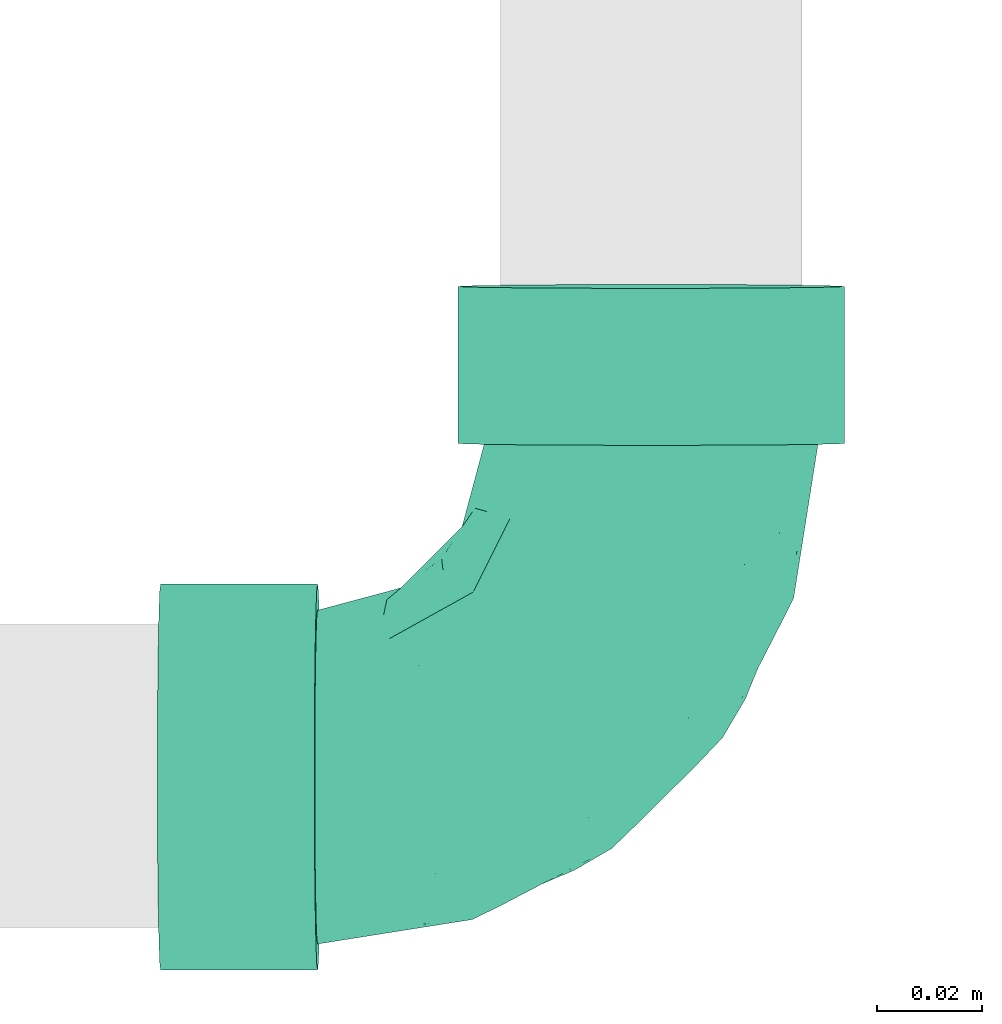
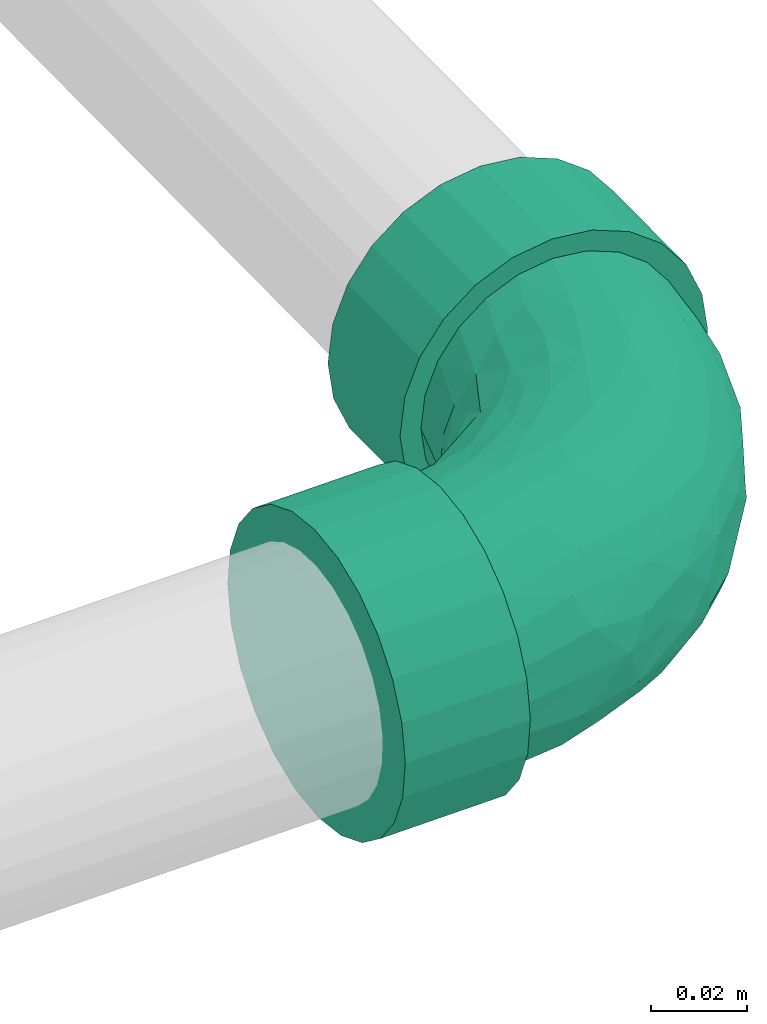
# One storey, part 65 of 78: 1 flow fitting.
"""IFC2X3 building model written with IfcOpenShell, lengths in millimetres."""

from ifc_helpers import new_model, entity, si_unit, converted_unit, derived_unit, direction, frame, origin_with_axes, place, context, subcontext, project, spatial, open_shell, surface_model, source, transform, mapped, type_object, element, save


model = new_model("IFC2X3")

# Units and contexts
model_context = context("Model", 3, precision=0.01, world=frame((0.0, 4.29681676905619e-09, 0.0)), true_north=direction((4.01073788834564e-13, 1.0)))
plan_context = context("Plan", 3, precision=0.01, world=frame((0.0, 4.29681676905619e-09, 0.0)), true_north=direction((4.01073788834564e-13, 1.0)))
body_context = subcontext(model_context, "Body", "Model", "MODEL_VIEW")
ifc_project = project(units=[converted_unit("PLANEANGLEUNIT", "DEGREE", entity("IfcPositiveLengthMeasure", 0.0174532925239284), si_unit("PLANEANGLEUNIT", "RADIAN"), dimensions=[0, 0, 0, 0, 0, 0, 0]), si_unit("AREAUNIT", "SQUARE_METRE"), si_unit("LENGTHUNIT", "METRE", prefix="MILLI"), si_unit("MASSUNIT", "GRAM", prefix="KILO"), si_unit("POWERUNIT", "WATT"), si_unit("PRESSUREUNIT", "PASCAL"), si_unit("FORCEUNIT", "NEWTON", prefix="KILO"), si_unit("ELECTRICVOLTAGEUNIT", "VOLT"), si_unit("ELECTRICCURRENTUNIT", "AMPERE"), si_unit("THERMODYNAMICTEMPERATUREUNIT", "DEGREE_CELSIUS"), si_unit("TIMEUNIT", "SECOND"), si_unit("VOLUMEUNIT", "CUBIC_METRE"), derived_unit("LINEARVELOCITYUNIT", [(si_unit("LENGTHUNIT", "METRE"), 1), (si_unit("TIMEUNIT", "SECOND"), -1)]), derived_unit("VOLUMETRICFLOWRATEUNIT", [(si_unit("VOLUMEUNIT", "CUBIC_METRE"), 1), (si_unit("TIMEUNIT", "SECOND"), -1)]), derived_unit("THERMALTRANSMITTANCEUNIT", [(si_unit("POWERUNIT", "WATT"), 1), (si_unit("THERMODYNAMICTEMPERATUREUNIT", "KELVIN"), -1), (si_unit("AREAUNIT", "SQUARE_METRE"), -1)]), derived_unit("SOUNDPRESSUREUNIT", [(si_unit("PRESSUREUNIT", "PASCAL"), 1)])], contexts=[model_context, plan_context])

# Site, building, storey
site_placement = place(None, frame((0.0, -4.29681676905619e-09, 0.0), z_axis=(0.0, 0.0, 1.0), x_axis=(1.0, 0.0, 0.0)))
site = spatial("IfcSite", under=ifc_project, at=site_placement, Name="ENGM", CompositionType="ELEMENT")
building_placement = place(site_placement, frame((0.0, 4.29681676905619e-09, 0.0), z_axis=(0.0, 0.0, 1.0), x_axis=(1.0, 0.0, 0.0)))
building = spatial("IfcBuilding", under=site, at=building_placement, Name="TH", CompositionType="ELEMENT")
storey_placement = place(building_placement, frame((0.0, 0.0, 205200.0), z_axis=(0.0, 0.0, 1.0), x_axis=(1.0, 0.0, 0.0)))
storey = spatial("IfcBuildingStorey", under=building, at=storey_placement, Name="Nivå D + 1,2 m", CompositionType="ELEMENT", Elevation=205200.0)

# Flow fitting
pipe_fitting_type = type_object("IfcPipeFittingType", Name="magi_sewer_bend_001 2", PredefinedType="BEND")
shared_shape = source(origin_with_axes(), body_context, "Body", "SurfaceModel", [
    surface_model("IfcShellBasedSurfaceModel", [(-93.78937, -9.55042, -35.64266), (-93.78937, -18.45, -31.95634), (-93.78937, -26.09224, -26.09224), (-93.78937, -35.64266, -9.55042), (-93.78937, -36.9, 0.0), (-93.78937, -31.95634, -18.45), (-93.78937, 31.95634, -18.45), (-93.78937, 9.55042, -35.64266), (-93.78937, 0.0, -36.9), (-93.78937, 18.45, -31.95634), (-93.78937, 26.09224, -26.09224), (-93.78937, 35.64266, -9.55042), (-93.78937, -35.64266, 9.55042), (-93.78937, -31.95634, 18.45), (-93.78937, -26.09224, 26.09224), (-93.78937, 18.45, 31.95634), (-93.78937, -9.55042, 35.64266), (-93.78937, -18.45, 31.95634), (-93.78937, 0.0, 36.9), (-93.78937, 35.64266, 9.55042), (-93.78937, 31.95634, 18.45), (-93.78937, 36.9, 0.0), (-93.78937, 26.09224, 26.09224), (-93.78937, 9.55042, 35.64266), (-63.78937, -26.09224, 26.09224), (-63.78937, 0.0, 36.9), (-63.78937, -9.55042, 35.64266), (-63.78937, -18.45, 31.95634), (-63.78937, -31.95634, 18.45), (-63.78937, -35.64266, 9.55042), (-63.78937, 35.64266, 9.55042), (-63.78937, 18.45, 31.95634), (-63.78937, 31.95634, 18.45), (-63.78937, 26.09224, 26.09224), (-63.78937, 9.55042, 35.64266), (-63.78937, 35.64266, -9.55042), (-63.78937, 36.9, 0.0), (-63.78937, -26.09224, -26.09224), (-63.78937, -36.9, 0.0), (-63.78937, -35.64266, -9.55042), (-63.78937, -31.95634, -18.45), (-63.78937, -18.45, -31.95634), (-63.78937, -9.55042, -35.64266), (-63.78937, 9.55042, -35.64266), (-63.78937, 0.0, -36.9), (-63.78937, 31.95634, -18.45), (-63.78937, 18.45, -31.95634), (-63.78937, 26.09224, -26.09224), (-35.62703, 93.79531, 9.55042), (-31.94071, 93.79469, 18.45), (-26.07661, 93.79371, 26.09224), (-35.62703, 93.79531, -9.55042), (-9.53479, 93.79096, 35.64266), (0.01563, 93.78937, 36.9), (-18.43437, 93.79244, 31.95634), (9.56605, 93.78777, -35.64266), (-18.43437, 93.79244, -31.95634), (-31.94071, 93.79469, -18.45), (-36.88437, 93.79552, 0.0), (-26.07661, 93.79371, -26.09224), (-9.53479, 93.79096, -35.64266), (9.56605, 93.78777, 35.64266), (18.46563, 93.78629, 31.95634), (26.10787, 93.78502, 26.09224), (35.65829, 93.78343, 9.55042), (36.91563, 93.78322, 0.0), (31.97197, 93.78404, 18.45), (18.46563, 93.78629, -31.95634), (0.01563, 93.78937, -36.9), (26.10787, 93.78502, -26.09224), (31.97197, 93.78404, -18.45), (35.65829, 93.78343, -9.55042), (26.10287, 63.78502, 26.09224), (36.91063, 63.78322, 0.0), (35.65329, 63.78343, 9.55042), (31.96697, 63.78404, 18.45), (18.46063, 63.78629, 31.95634), (9.56105, 63.78778, 35.64266), (9.56105, 63.78778, -35.64266), (26.10287, 63.78502, -26.09224), (31.96697, 63.78404, -18.45), (35.65329, 63.78343, -9.55042), (18.46063, 63.78629, -31.95634), (0.01063, 63.78937, -36.9), (0.01063, 63.78937, 36.9), (-26.08161, 63.79372, 26.09224), (-9.53979, 63.79096, 35.64266), (-18.43937, 63.79244, 31.95634), (-31.94571, 63.79469, 18.45), (-35.63203, 63.79531, 9.55042), (-35.63203, 63.79531, -9.55042), (-18.43937, 63.79244, -31.95634), (-31.94571, 63.79469, -18.45), (-26.08161, 63.79372, -26.09224), (-9.53979, 63.79096, -35.64266), (-36.88937, 63.79552, 0.0), (-63.78937, 0.0, -31.9), (-63.78937, -22.55671, -22.55671), (-63.78937, 8.25633, -30.81303), (-63.78937, 15.95, -27.62621), (-63.78937, 22.55671, -22.55671), (-63.78937, 30.81303, -8.25633), (-63.78937, 27.62621, -15.95), (-63.78937, -30.81303, -8.25633), (-63.78937, 15.95, 27.62621), (-63.78937, -15.95, -27.62621), (-63.78937, -8.25633, -30.81303), (-63.78937, -27.62621, -15.95), (-63.78937, -31.9, 0.0), (-63.78937, -15.95, 27.62621), (-63.78937, 30.81303, 8.25633), (-63.78937, 27.62621, 15.95), (-63.78937, 22.55671, 22.55671), (-63.78937, 8.25633, 30.81303), (-63.78937, -30.81303, 8.25633), (-63.78937, -27.62621, 15.95), (-63.78937, -22.55671, 22.55671), (-63.78937, -8.25633, 30.81303), (-63.78937, 0.0, 31.9), (-63.78937, 31.9, 0.0), (-8.2457, 63.79074, -30.81303), (22.56734, 63.78561, -22.55671), (0.01063, 63.78937, -31.9), (-22.54607, 63.79313, -22.55671), (-15.93937, 63.79202, -27.62621), (-27.61558, 63.79397, -15.95), (-30.8024, 63.7945, -8.25633), (22.56734, 63.78561, 22.55671), (8.26696, 63.78799, -30.81303), (15.96063, 63.78671, -27.62621), (30.82367, 63.78423, -8.25633), (27.63684, 63.78476, -15.95), (27.63684, 63.78476, 15.95), (31.91063, 63.78405, 0.0), (-30.8024, 63.7945, 8.25633), (-15.93937, 63.79202, 27.62621), (-27.61558, 63.79397, 15.95), (-22.54607, 63.79313, 22.55671), (-8.2457, 63.79074, 30.81303), (30.82367, 63.78423, 8.25633), (15.96063, 63.78671, 27.62621), (0.01063, 63.78937, 31.9), (8.26696, 63.78799, 30.81303), (-31.88937, 63.79468, 0.0), (-43.08604, -27.97732, 10.02596), (-46.77558, -24.78091, 17.90665), (-34.21948, -27.21709, 0.0), (-48.10039, -29.41538, 0.0), (-8.16306, -11.02112, 12.29956), (-2.21685, -8.52791, 6.70748), (1.84896, -1.84927, 13.21424), (-48.72418, -4.22591, 31.3545), (-44.66107, 4.8898, 31.84561), (10.90339, 7.78378, 11.98264), (19.48301, 25.94269, 15.8672), (7.4754, 11.5645, 20.3591), (-31.75206, -0.28709, 30.91936), (-46.65339, -12.03565, 28.68928), (-24.76478, -7.53466, 26.66382), (-40.9096, -18.22351, 23.69773), (-28.57458, -24.45131, 6.56214), (-20.88148, -20.42188, 0.0), (-11.56575, -7.47347, 20.3591), (-5.69333, 5.69427, 26.08182), (-31.17399, 50.90888, 13.86467), (-26.63992, 49.65914, 20.95703), (-11.89855, 55.01823, 29.87995), (-4.36414, 47.70887, 31.82163), (-49.16385, 12.51114, 30.13404), (-8.32127, 21.35872, 31.32249), (-15.84321, 5.85163, 29.78885), (-3.25166, 17.23033, 29.31573), (-55.18237, 19.31803, 25.99268), (-11.08136, 31.36561, 31.84265), (-23.62231, 23.62624, 31.12464), (-18.98995, 13.93756, 31.73588), (-50.42666, 33.97637, 7.01303), (-50.91955, 31.17731, 13.86255), (-39.59952, 39.60612, 11.92423), (-49.85747, 26.59243, 20.93471), (18.23033, 40.90656, 23.69773), (-33.074, 42.28378, 18.05581), (12.04342, 46.65139, 28.68928), (24.7887, 46.77145, 17.90665), (27.9845, 43.08138, 10.02596), (-7.54348, -13.62668, 0.0), (-15.48394, -17.54986, 8.26446), (4.23403, 48.72347, 31.3545), (-35.046, 13.66302, 31.32909), (-31.2954, 7.81639, 31.88643), (20.42537, 20.87807, 0.0), (24.45607, 28.57051, 6.56214), (17.55244, 15.48102, 8.26446), (29.42339, 48.09548, 0.0), (-33.90701, 21.64253, 29.50545), (-25.94593, -19.47869, 15.8672), (-23.12024, 41.22512, 26.81087), (-19.47975, 53.48429, 26.12511), (-33.57005, 51.45735, 6.8436), (-39.97248, 41.83694, 5.61376), (14.70142, 25.68478, 21.62026), (7.53878, 24.76353, 26.66382), (-36.16493, 47.84693, 0.0), (-29.52529, 33.68236, 26.2119), (-43.92016, 21.65347, 26.86272), (-0.4803, 0.48038, 18.8431), (-18.19741, 33.018, 30.66521), (-25.40818, 30.87975, 29.02507), (-13.7885, 43.2195, 30.38011), (-33.61949, 35.62164, 22.5958), (-40.96162, 34.27645, 17.78747), (0.29238, 31.75201, 30.91936), (-25.56771, -13.98174, 22.24371), (8.70396, 2.31024, 6.36121), (27.2228, 34.21494, 0.0), (13.62793, 7.54121, 0.0), (-47.8409, 36.1729, 0.0), (3.04223, -3.04273, 0.0), (-47.03189, 27.47246, -21.2478), (-50.89181, 31.18634, -13.86626), (-26.05508, -8.05385, -26.76304), (-27.69275, -0.39955, -30.34069), (-12.81458, -0.53724, -26.14042), (-50.49113, 4.03354, -31.79615), (-46.527, -28.55774, -10.39989), (-40.07196, -23.65645, -17.27847), (-30.42885, -23.92154, -10.70294), (-46.40182, 13.02181, -30.24973), (-35.13506, 7.54039, -31.8931), (-27.46463, 47.03646, -21.2478), (-51.63429, 33.47198, -6.98063), (-20.01398, 50.07333, -26.38899), (-13.01408, 46.40399, -30.24973), (-40.58229, 40.58906, -7.61606), (19.06588, 46.1376, -24.08513), (11.01575, 40.38682, -28.37128), (12.58485, 53.86372, -29.03271), (-6.21339, -11.22841, -8.40037), (-6.29302, -8.27188, -14.5345), (3.4298, -2.72078, -8.41635), (-18.60735, 17.2464, -31.88191), (-30.23178, 18.87477, -30.95048), (-50.07, 20.02232, -26.38899), (-53.69662, -25.39415, -18.53413), (-31.02727, 36.23446, -24.02673), (-29.47502, 29.47993, -28.00882), (-38.98268, 26.94506, -25.34272), (2.79694, -0.58162, -13.67243), (-46.14077, -19.05819, -24.08513), (23.66313, 40.06802, -17.27847), (28.56549, 46.52224, -10.39989), (23.92661, 30.42486, -10.70294), (-53.86581, -12.57587, -29.03271), (4.0299, 46.98803, -31.31678), (-20.16978, -15.53447, -17.40223), (-23.8098, -13.01342, -22.31603), (-11.55909, -7.8898, -19.94174), (-34.80482, -14.56735, -25.04645), (-40.38865, -11.00902, -28.37128), (-46.9887, -4.02207, -31.31678), (-23.8976, 39.24022, -27.02162), (-33.46337, 51.63987, -6.98063), (-4.02513, 50.49179, -31.79615), (-11.25614, 11.25801, -30.12263), (0.40417, 27.69268, -30.34069), (1.34693, 14.97706, -26.6036), (-31.17786, 50.897, -13.86626), (-38.30467, 38.31105, -15.72273), (25.4031, 53.69239, -18.53413), (18.4916, 25.61686, -17.13242), (10.28757, 12.08451, -17.69382), (13.01739, 23.80763, -22.31603), (6.59831, 27.22388, -27.86803), (-7.53454, 35.13631, -31.8931), (-38.77356, 20.52941, -28.75161), (-19.01603, 31.04056, -30.79542), (-0.2976, 0.29765, -18.48494), (-14.7701, -17.83817, -5.48813), (16.36021, 15.8364, -11.88125), (17.84063, 14.76713, -5.48813), (3.76429, 9.71857, -22.37704), (-15.83913, -16.35758, -11.88125)], [open_shell([[[0, 1, 2]], [[0, 2, 3]], [[3, 4, 0]], [[3, 2, 5]], [[0, 4, 6]], [[0, 7, 8]], [[0, 9, 7]], [[9, 6, 10]], [[0, 6, 9]], [[4, 11, 6]], [[4, 12, 11]], [[12, 13, 14]], [[15, 12, 14]], [[15, 14, 16]], [[16, 14, 17]], [[15, 16, 18]], [[19, 15, 20]], [[21, 11, 19]], [[20, 15, 22]], [[19, 12, 15]], [[23, 15, 18]], [[19, 11, 12]], [[24, 25, 26]], [[24, 26, 27]], [[24, 28, 29]], [[25, 24, 30]], [[30, 24, 29]], [[31, 32, 33]], [[31, 34, 25]], [[31, 30, 32]], [[25, 30, 31]], [[30, 35, 36]], [[30, 29, 35]], [[37, 38, 39]], [[37, 39, 40]], [[37, 41, 42]], [[38, 37, 43]], [[44, 37, 42]], [[45, 46, 47]], [[45, 35, 38]], [[38, 43, 46]], [[46, 45, 38]], [[43, 37, 44]], [[38, 35, 29]], [[35, 11, 36]], [[45, 6, 35]], [[9, 47, 46]], [[45, 47, 10]], [[7, 46, 43]], [[35, 6, 11]], [[11, 21, 36]], [[7, 9, 46]], [[10, 47, 9]], [[10, 6, 45]], [[8, 7, 43]], [[43, 44, 8]], [[42, 0, 44]], [[41, 1, 42]], [[39, 38, 3]], [[37, 2, 41]], [[41, 2, 1]], [[1, 0, 42]], [[5, 40, 3]], [[5, 2, 37]], [[3, 40, 39]], [[38, 4, 3]], [[5, 37, 40]], [[44, 0, 8]], [[29, 12, 38]], [[28, 13, 29]], [[17, 24, 27]], [[28, 24, 14]], [[16, 27, 26]], [[29, 13, 12]], [[12, 4, 38]], [[16, 17, 27]], [[14, 24, 17]], [[14, 13, 28]], [[18, 16, 26]], [[26, 25, 18]], [[15, 31, 33]], [[20, 32, 30]], [[33, 32, 22]], [[19, 30, 36]], [[23, 34, 15]], [[34, 23, 25]], [[34, 31, 15]], [[33, 22, 15]], [[32, 20, 22]], [[19, 20, 30]], [[36, 21, 19]], [[25, 23, 18]], [[48, 49, 50]], [[51, 48, 50]], [[52, 53, 50]], [[52, 50, 54]], [[51, 50, 55]], [[51, 56, 57]], [[51, 58, 48]], [[57, 56, 59]], [[56, 51, 55]], [[55, 60, 56]], [[50, 53, 61]], [[61, 62, 63]], [[63, 55, 50]], [[64, 65, 63]], [[64, 63, 66]], [[55, 63, 65]], [[65, 67, 55]], [[68, 60, 55]], [[69, 67, 65]], [[65, 70, 69]], [[71, 70, 65]], [[63, 50, 61]], [[72, 73, 74]], [[72, 74, 75]], [[72, 76, 77]], [[73, 72, 78]], [[78, 72, 77]], [[73, 79, 80]], [[80, 81, 73]], [[73, 82, 79]], [[82, 73, 78]], [[77, 83, 78]], [[77, 84, 83]], [[85, 84, 86]], [[85, 86, 87]], [[85, 88, 89]], [[83, 85, 90]], [[90, 85, 89]], [[91, 92, 93]], [[94, 83, 91]], [[91, 90, 92]], [[90, 91, 83]], [[89, 95, 90]], [[85, 83, 84]], [[94, 60, 83]], [[91, 56, 94]], [[57, 93, 92]], [[91, 93, 59]], [[51, 92, 90]], [[94, 56, 60]], [[60, 68, 83]], [[51, 57, 92]], [[59, 93, 57]], [[59, 56, 91]], [[58, 51, 90]], [[90, 95, 58]], [[89, 48, 95]], [[88, 49, 89]], [[86, 84, 52]], [[85, 50, 88]], [[88, 50, 49]], [[49, 48, 89]], [[54, 87, 52]], [[54, 50, 85]], [[52, 87, 86]], [[84, 53, 52]], [[54, 85, 87]], [[95, 48, 58]], [[77, 61, 84]], [[76, 62, 77]], [[66, 72, 75]], [[76, 72, 63]], [[64, 75, 74]], [[77, 62, 61]], [[61, 53, 84]], [[64, 66, 75]], [[63, 72, 66]], [[63, 62, 76]], [[65, 64, 74]], [[74, 73, 65]], [[70, 80, 79]], [[67, 82, 78]], [[79, 82, 69]], [[55, 78, 83]], [[71, 81, 70]], [[81, 71, 73]], [[81, 80, 70]], [[79, 69, 70]], [[82, 67, 69]], [[55, 67, 78]], [[83, 68, 55]], [[73, 71, 65]], [[96, 97, 98]], [[99, 98, 100]], [[101, 102, 100]], [[100, 98, 97]], [[100, 103, 104]], [[105, 97, 106]], [[97, 96, 106]], [[107, 103, 97]], [[97, 103, 100]], [[108, 109, 103]], [[101, 100, 110]], [[104, 110, 100]], [[111, 110, 104]], [[103, 109, 104]], [[112, 111, 104]], [[113, 104, 109]], [[114, 115, 108]], [[108, 115, 116]], [[117, 118, 109]], [[109, 108, 116]], [[113, 109, 118]], [[110, 119, 101]], [[120, 121, 122]], [[123, 120, 124]], [[123, 125, 126]], [[121, 120, 123]], [[123, 127, 121]], [[128, 121, 129]], [[128, 122, 121]], [[121, 130, 131]], [[121, 127, 130]], [[130, 132, 133]], [[127, 123, 126]], [[127, 126, 134]], [[135, 134, 136]], [[134, 135, 127]], [[135, 136, 137]], [[138, 127, 135]], [[133, 132, 139]], [[127, 132, 130]], [[140, 141, 142]], [[140, 127, 138]], [[141, 140, 138]], [[126, 143, 134]], [[144, 145, 115]], [[146, 144, 147]], [[148, 149, 150]], [[114, 144, 115]], [[114, 147, 144]], [[118, 151, 152]], [[115, 145, 116]], [[153, 154, 155]], [[156, 157, 158]], [[159, 109, 116]], [[159, 157, 109]], [[160, 146, 161]], [[158, 162, 163]], [[136, 164, 165]], [[138, 166, 167]], [[113, 168, 104]], [[169, 170, 171]], [[104, 172, 112]], [[117, 151, 118]], [[173, 174, 175]], [[176, 177, 178]], [[111, 179, 177]], [[180, 127, 140]], [[119, 110, 176]], [[110, 111, 177]], [[164, 181, 165]], [[179, 111, 112]], [[118, 152, 113]], [[140, 182, 180]], [[112, 172, 179]], [[183, 154, 184]], [[136, 134, 164]], [[185, 186, 161]], [[141, 187, 142]], [[161, 186, 160]], [[141, 138, 167]], [[188, 189, 175]], [[184, 139, 132]], [[132, 127, 183]], [[183, 184, 132]], [[190, 191, 192]], [[184, 193, 139]], [[194, 168, 188]], [[145, 195, 159]], [[165, 196, 197]], [[178, 198, 199]], [[200, 201, 155]], [[202, 198, 143]], [[194, 203, 204]], [[198, 178, 164]], [[182, 140, 142]], [[165, 137, 136]], [[205, 150, 153]], [[206, 196, 207]], [[109, 157, 117]], [[197, 135, 137]], [[166, 138, 135]], [[208, 173, 167]], [[180, 182, 201]], [[192, 191, 154]], [[196, 165, 209]], [[168, 113, 152]], [[204, 209, 179]], [[177, 210, 178]], [[208, 206, 173]], [[187, 167, 211]], [[158, 157, 159]], [[151, 157, 156]], [[212, 195, 162]], [[170, 158, 163]], [[187, 182, 142]], [[201, 182, 211]], [[171, 201, 211]], [[205, 163, 162]], [[155, 201, 163]], [[144, 160, 195]], [[195, 145, 144]], [[159, 116, 145]], [[127, 180, 183]], [[154, 183, 180]], [[188, 168, 152]], [[172, 168, 204]], [[198, 164, 134]], [[178, 210, 181]], [[194, 207, 203]], [[208, 166, 197]], [[210, 179, 209]], [[178, 199, 176]], [[188, 175, 174]], [[211, 167, 173]], [[170, 175, 156]], [[173, 175, 169]], [[167, 187, 141]], [[182, 187, 211]], [[157, 151, 117]], [[152, 151, 156]], [[153, 150, 213]], [[200, 155, 154]], [[212, 162, 158]], [[148, 195, 186]], [[114, 108, 147]], [[193, 184, 214]], [[193, 133, 139]], [[149, 186, 185]], [[186, 149, 148]], [[190, 192, 215]], [[184, 191, 214]], [[213, 150, 149]], [[188, 152, 189]], [[194, 188, 174]], [[207, 194, 174]], [[168, 194, 204]], [[206, 207, 174]], [[203, 207, 196]], [[143, 198, 134]], [[198, 202, 199]], [[202, 216, 199]], [[199, 216, 176]], [[119, 176, 216]], [[110, 177, 176]], [[152, 156, 189]], [[156, 175, 189]], [[213, 217, 215]], [[217, 213, 149]], [[149, 185, 217]], [[215, 192, 213]], [[213, 192, 153]], [[173, 206, 174]], [[196, 206, 208]], [[179, 210, 177]], [[181, 210, 209]], [[165, 181, 209]], [[178, 181, 164]], [[205, 148, 150]], [[195, 148, 162]], [[165, 197, 137]], [[208, 197, 196]], [[196, 209, 203]], [[204, 203, 209]], [[158, 170, 156]], [[171, 170, 163]], [[201, 171, 163]], [[169, 171, 211]], [[173, 169, 211]], [[170, 169, 175]], [[195, 160, 186]], [[146, 160, 144]], [[214, 191, 190]], [[154, 191, 184]], [[154, 153, 192]], [[205, 153, 155]], [[168, 172, 104]], [[179, 172, 204]], [[197, 166, 135]], [[167, 166, 208]], [[154, 180, 200]], [[201, 200, 180]], [[163, 205, 155]], [[148, 205, 162]], [[158, 159, 212]], [[195, 212, 159]], [[218, 102, 219]], [[220, 221, 222]], [[96, 98, 223]], [[224, 225, 226]], [[223, 227, 228]], [[125, 123, 229]], [[216, 230, 119]], [[231, 124, 232]], [[219, 230, 233]], [[234, 235, 236]], [[218, 100, 102]], [[237, 238, 239]], [[240, 228, 241]], [[227, 99, 242]], [[224, 107, 243]], [[244, 245, 246]], [[224, 147, 103]], [[238, 247, 239]], [[248, 97, 105]], [[249, 250, 251]], [[252, 248, 105]], [[128, 253, 122]], [[254, 255, 256]], [[243, 107, 97]], [[225, 248, 257]], [[252, 105, 106]], [[258, 259, 221]], [[250, 131, 130]], [[216, 202, 233]], [[245, 244, 260]], [[143, 126, 261]], [[259, 106, 96]], [[102, 101, 219]], [[120, 262, 232]], [[263, 264, 265]], [[266, 229, 267]], [[120, 122, 262]], [[129, 121, 234]], [[253, 128, 236]], [[126, 125, 266]], [[121, 131, 268]], [[124, 231, 123]], [[228, 227, 241]], [[128, 129, 236]], [[269, 270, 271]], [[265, 264, 272]], [[120, 232, 124]], [[271, 234, 269]], [[264, 273, 253]], [[259, 258, 252]], [[249, 268, 250]], [[107, 224, 103]], [[250, 193, 214]], [[227, 274, 241]], [[99, 100, 242]], [[271, 235, 234]], [[251, 214, 190]], [[227, 98, 99]], [[242, 274, 227]], [[266, 233, 261]], [[245, 275, 241]], [[267, 229, 244]], [[256, 276, 238]], [[161, 277, 185]], [[266, 261, 126]], [[233, 267, 219]], [[268, 234, 121]], [[234, 249, 269]], [[264, 253, 235]], [[262, 253, 273]], [[272, 271, 265]], [[264, 263, 240]], [[250, 130, 193]], [[251, 278, 269]], [[258, 220, 257]], [[243, 248, 225]], [[223, 259, 96]], [[228, 240, 221]], [[228, 221, 259]], [[221, 263, 222]], [[225, 254, 226]], [[130, 133, 193]], [[239, 278, 279]], [[265, 222, 263]], [[100, 218, 242]], [[274, 246, 245]], [[232, 275, 260]], [[229, 123, 231]], [[219, 101, 230]], [[218, 219, 267]], [[229, 266, 125]], [[233, 266, 267]], [[280, 271, 270]], [[276, 256, 222]], [[222, 265, 280]], [[222, 255, 220]], [[147, 224, 146]], [[147, 108, 103]], [[227, 223, 98]], [[259, 223, 228]], [[253, 262, 122]], [[232, 262, 273]], [[260, 275, 245]], [[240, 263, 221]], [[275, 240, 241]], [[264, 240, 273]], [[232, 273, 275]], [[240, 275, 273]], [[237, 217, 185]], [[185, 277, 237]], [[250, 214, 251]], [[279, 251, 190]], [[239, 279, 215]], [[215, 279, 190]], [[251, 279, 278]], [[277, 226, 281]], [[146, 224, 226]], [[226, 277, 161]], [[146, 226, 161]], [[237, 277, 281]], [[238, 237, 281]], [[239, 217, 237]], [[254, 256, 238]], [[238, 276, 247]], [[254, 238, 281]], [[222, 256, 255]], [[226, 254, 281]], [[225, 255, 254]], [[119, 230, 101]], [[216, 233, 230]], [[233, 202, 261]], [[143, 261, 202]], [[270, 247, 276]], [[278, 239, 247]], [[246, 242, 218]], [[245, 241, 274]], [[242, 246, 274]], [[218, 267, 244]], [[244, 246, 218]], [[260, 229, 231]], [[229, 260, 244]], [[260, 231, 232]], [[234, 236, 129]], [[253, 236, 235]], [[250, 268, 131]], [[234, 268, 249]], [[259, 252, 106]], [[248, 252, 258]], [[248, 243, 97]], [[224, 243, 225]], [[251, 269, 249]], [[270, 269, 278]], [[247, 270, 278]], [[270, 276, 280]], [[222, 280, 276]], [[271, 280, 265]], [[264, 235, 272]], [[271, 272, 235]], [[257, 220, 255]], [[221, 220, 258]], [[225, 257, 255]], [[258, 257, 248]], [[239, 215, 217]]])]),
])
flow_fitting_placement = place(storey_placement, frame((905003.37457, 476048.18153, 4290.62836), z_axis=(-0.0166670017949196, -0.0099980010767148, 0.999811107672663), x_axis=(0.99986108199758, -3.83201782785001e-08, 0.0166678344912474)))
element("IfcFlowFitting", 1, at=flow_fitting_placement, inside=storey, type_object=pipe_fitting_type, Name="magi_sewer_bend_001 2", context=body_context, shape_type="MappedRepresentation", body=[
    mapped(shared_shape, transform((0.0, 0.0, 0.0), scale=1.0)),
])

save(model, "model.ifc")
